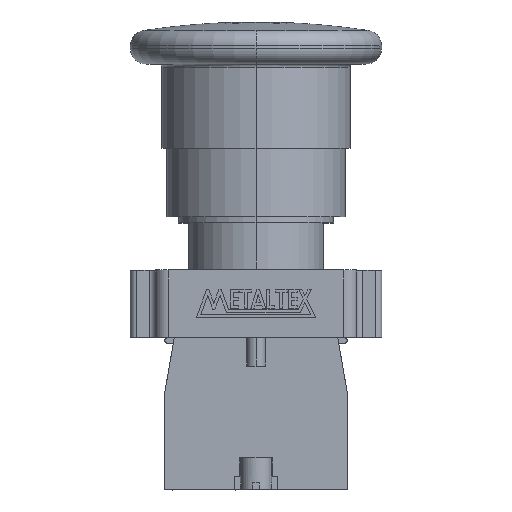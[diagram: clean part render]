
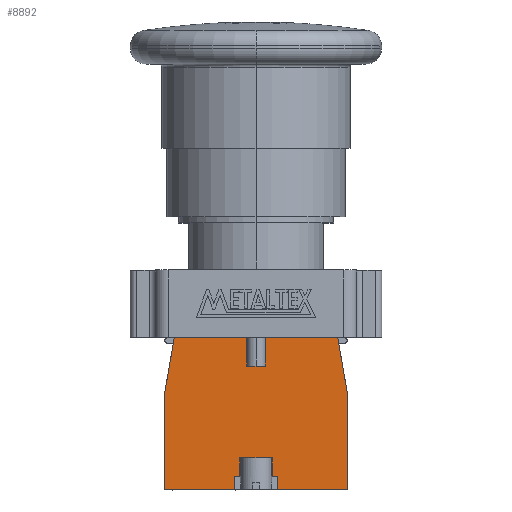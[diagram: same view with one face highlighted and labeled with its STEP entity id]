
A CAD part, top view. The second image highlights one B-rep face of the part: STEP entity #8892.
In plain terms, the highlighted planar face has unit normal (0, 0, 1).
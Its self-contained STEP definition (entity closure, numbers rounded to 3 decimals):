
#1168 = PLANE ( 'NONE',  #6559 ) ;
#1169 = CARTESIAN_POINT ( 'NONE',  ( 0., 0., 7.45 ) ) ;
#1170 = DIRECTION ( 'NONE',  ( 0., 0., 1. ) ) ;
#1171 = DIRECTION ( 'NONE',  ( 1., 0., 0. ) ) ;
#1584 = LINE ( 'NONE', #1585, #7468 ) ;
#1585 = CARTESIAN_POINT ( 'NONE',  ( -14.5, 0., 7.45 ) ) ;
#1586 = DIRECTION ( 'NONE',  ( 1., 0., 0. ) ) ;
#1593 = LINE ( 'NONE', #1594, #7465 ) ;
#1594 = CARTESIAN_POINT ( 'NONE',  ( -14.5, 0., 7.45 ) ) ;
#1595 = DIRECTION ( 'NONE',  ( 1., 0., 0. ) ) ;
#1707 = LINE ( 'NONE', #1708, #7423 ) ;
#1708 = CARTESIAN_POINT ( 'NONE',  ( 14.5, 0., 7.45 ) ) ;
#1709 = DIRECTION ( 'NONE',  ( 0., 1., 0. ) ) ;
#1719 = LINE ( 'NONE', #1720, #7418 ) ;
#1720 = CARTESIAN_POINT ( 'NONE',  ( -13., 24.2, 7.45 ) ) ;
#1721 = DIRECTION ( 'NONE',  ( -0.17, -0.985, 0. ) ) ;
#1722 = LINE ( 'NONE', #1723, #7417 ) ;
#1723 = CARTESIAN_POINT ( 'NONE',  ( -1.5, 19.6, 7.45 ) ) ;
#1724 = DIRECTION ( 'NONE',  ( 0., 1., 0. ) ) ;
#1725 = LINE ( 'NONE', #1726, #7416 ) ;
#1726 = CARTESIAN_POINT ( 'NONE',  ( -3.5, 0., 7.45 ) ) ;
#1727 = DIRECTION ( 'NONE',  ( 0., 1., 0. ) ) ;
#1728 = LINE ( 'NONE', #1729, #7415 ) ;
#1729 = CARTESIAN_POINT ( 'NONE',  ( 0., 2., 7.45 ) ) ;
#1730 = DIRECTION ( 'NONE',  ( 1., 0., 0. ) ) ;
#1731 = LINE ( 'NONE', #1732, #7414 ) ;
#1732 = CARTESIAN_POINT ( 'NONE',  ( -2.6, 0., 7.45 ) ) ;
#1733 = DIRECTION ( 'NONE',  ( 0., 1., 0. ) ) ;
#1734 = LINE ( 'NONE', #1735, #7412 ) ;
#1735 = CARTESIAN_POINT ( 'NONE',  ( 2.6, 0., 7.45 ) ) ;
#1736 = DIRECTION ( 'NONE',  ( 0., 1., 0. ) ) ;
#1737 = LINE ( 'NONE', #1738, #7409 ) ;
#1738 = CARTESIAN_POINT ( 'NONE',  ( 0., 2., 7.45 ) ) ;
#1739 = DIRECTION ( 'NONE',  ( 1., 0., 0. ) ) ;
#1740 = LINE ( 'NONE', #1741, #7406 ) ;
#1741 = CARTESIAN_POINT ( 'NONE',  ( 3.5, 0., 7.45 ) ) ;
#1742 = DIRECTION ( 'NONE',  ( 0., 1., 0. ) ) ;
#1743 = LINE ( 'NONE', #1744, #7403 ) ;
#1744 = CARTESIAN_POINT ( 'NONE',  ( 1.5, 19.6, 7.45 ) ) ;
#1745 = DIRECTION ( 'NONE',  ( 0., 1., 0. ) ) ;
#2596 = CARTESIAN_POINT ( 'NONE',  ( 1.5, 19.6, 7.45 ) ) ;
#2602 = CARTESIAN_POINT ( 'NONE',  ( 2.6, 5., 7.45 ) ) ;
#2603 = CARTESIAN_POINT ( 'NONE',  ( -2.6, 5., 7.45 ) ) ;
#2604 = CARTESIAN_POINT ( 'NONE',  ( -1.5, 19.6, 7.45 ) ) ;
#2611 = CARTESIAN_POINT ( 'NONE',  ( -14.5, 0., 7.45 ) ) ;
#2612 = CARTESIAN_POINT ( 'NONE',  ( -14.5, 15.5, 7.45 ) ) ;
#4561 = VERTEX_POINT ( 'NONE', #11277 ) ;
#4562 = VERTEX_POINT ( 'NONE', #11278 ) ;
#4566 = VERTEX_POINT ( 'NONE', #11282 ) ;
#4597 = VERTEX_POINT ( 'NONE', #11313 ) ;
#4598 = VERTEX_POINT ( 'NONE', #11314 ) ;
#4600 = VERTEX_POINT ( 'NONE', #11316 ) ;
#4601 = VERTEX_POINT ( 'NONE', #11317 ) ;
#4756 = VERTEX_POINT ( 'NONE', #11472 ) ;
#4757 = VERTEX_POINT ( 'NONE', #11473 ) ;
#4760 = VERTEX_POINT ( 'NONE', #11476 ) ;
#4761 = VERTEX_POINT ( 'NONE', #11477 ) ;
#4763 = VERTEX_POINT ( 'NONE', #11479 ) ;
#4942 = VERTEX_POINT ( 'NONE', #2596 ) ;
#4948 = VERTEX_POINT ( 'NONE', #2602 ) ;
#4949 = VERTEX_POINT ( 'NONE', #2603 ) ;
#4950 = VERTEX_POINT ( 'NONE', #2604 ) ;
#4957 = VERTEX_POINT ( 'NONE', #2611 ) ;
#4958 = VERTEX_POINT ( 'NONE', #2612 ) ;
#5411 = ORIENTED_EDGE ( 'NONE', *, *, #8408, .T. ) ;
#5413 = ORIENTED_EDGE ( 'NONE', *, *, #8533, .F. ) ;
#5414 = ORIENTED_EDGE ( 'NONE', *, *, #8368, .T. ) ;
#5415 = ORIENTED_EDGE ( 'NONE', *, *, #8521, .T. ) ;
#5416 = ORIENTED_EDGE ( 'NONE', *, *, #8357, .T. ) ;
#5417 = ORIENTED_EDGE ( 'NONE', *, *, #8480, .T. ) ;
#5418 = ORIENTED_EDGE ( 'NONE', *, *, #8531, .T. ) ;
#5419 = ORIENTED_EDGE ( 'NONE', *, *, #8532, .F. ) ;
#5420 = ORIENTED_EDGE ( 'NONE', *, *, #8530, .F. ) ;
#5421 = ORIENTED_EDGE ( 'NONE', *, *, #8402, .F. ) ;
#5422 = ORIENTED_EDGE ( 'NONE', *, *, #8528, .T. ) ;
#5423 = ORIENTED_EDGE ( 'NONE', *, *, #8529, .T. ) ;
#5424 = ORIENTED_EDGE ( 'NONE', *, *, #8527, .T. ) ;
#5425 = ORIENTED_EDGE ( 'NONE', *, *, #8483, .T. ) ;
#5426 = ORIENTED_EDGE ( 'NONE', *, *, #8364, .T. ) ;
#5427 = ORIENTED_EDGE ( 'NONE', *, *, #8415, .T. ) ;
#5428 = ORIENTED_EDGE ( 'NONE', *, *, #8526, .T. ) ;
#5429 = ORIENTED_EDGE ( 'NONE', *, *, #8525, .T. ) ;
#6141 = EDGE_LOOP ( 'NONE', ( #5428, #5426, #5429, #5427, #5425, #5424, #5422, #5423, #5421, #5420, #5418, #5419, #5417, #5415, #5416, #5414, #5413, #5411 ) ) ;
#6559 = AXIS2_PLACEMENT_3D ( 'NONE', #1169, #1170, #1171 ) ;
#6565 = FACE_OUTER_BOUND ( 'NONE', #6141, .T. ) ;
#7403 = VECTOR ( 'NONE', #1745, 1000. ) ;
#7406 = VECTOR ( 'NONE', #1742, 1000. ) ;
#7409 = VECTOR ( 'NONE', #1739, 1000. ) ;
#7412 = VECTOR ( 'NONE', #1736, 1000. ) ;
#7414 = VECTOR ( 'NONE', #1733, 1000. ) ;
#7415 = VECTOR ( 'NONE', #1730, 1000. ) ;
#7416 = VECTOR ( 'NONE', #1727, 1000. ) ;
#7417 = VECTOR ( 'NONE', #1724, 1000. ) ;
#7418 = VECTOR ( 'NONE', #1721, 1000. ) ;
#7423 = VECTOR ( 'NONE', #1709, 1000. ) ;
#7465 = VECTOR ( 'NONE', #1595, 1000. ) ;
#7468 = VECTOR ( 'NONE', #1586, 1000. ) ;
#7518 = VECTOR ( 'NONE', #9998, 1000. ) ;
#7526 = VECTOR ( 'NONE', #9977, 1000. ) ;
#7535 = VECTOR ( 'NONE', #9959, 1000. ) ;
#7568 = VECTOR ( 'NONE', #9857, 1000. ) ;
#7572 = VECTOR ( 'NONE', #9845, 1000. ) ;
#7580 = VECTOR ( 'NONE', #9824, 1000. ) ;
#8357 = EDGE_CURVE ( 'NONE', #4757, #4756, #9822, .T. ) ;
#8364 = EDGE_CURVE ( 'NONE', #4761, #4760, #9843, .T. ) ;
#8368 = EDGE_CURVE ( 'NONE', #4756, #4763, #9855, .T. ) ;
#8402 = EDGE_CURVE ( 'NONE', #4948, #4949, #9957, .T. ) ;
#8408 = EDGE_CURVE ( 'NONE', #4942, #4950, #9975, .T. ) ;
#8415 = EDGE_CURVE ( 'NONE', #4958, #4957, #9996, .T. ) ;
#8480 = EDGE_CURVE ( 'NONE', #4561, #4562, #1584, .T. ) ;
#8483 = EDGE_CURVE ( 'NONE', #4957, #4566, #1593, .T. ) ;
#8521 = EDGE_CURVE ( 'NONE', #4562, #4757, #1707, .T. ) ;
#8525 = EDGE_CURVE ( 'NONE', #4760, #4958, #1719, .T. ) ;
#8526 = EDGE_CURVE ( 'NONE', #4950, #4761, #1722, .T. ) ;
#8527 = EDGE_CURVE ( 'NONE', #4566, #4597, #1725, .T. ) ;
#8528 = EDGE_CURVE ( 'NONE', #4597, #4598, #1728, .T. ) ;
#8529 = EDGE_CURVE ( 'NONE', #4598, #4949, #1731, .T. ) ;
#8530 = EDGE_CURVE ( 'NONE', #4600, #4948, #1734, .T. ) ;
#8531 = EDGE_CURVE ( 'NONE', #4600, #4601, #1737, .T. ) ;
#8532 = EDGE_CURVE ( 'NONE', #4561, #4601, #1740, .T. ) ;
#8533 = EDGE_CURVE ( 'NONE', #4942, #4763, #1743, .T. ) ;
#8892 = ADVANCED_FACE ( 'NONE', ( #6565 ), #1168, .T. ) ;
#9822 = LINE ( 'NONE', #9823, #7580 ) ;
#9823 = CARTESIAN_POINT ( 'NONE',  ( 14.5, 15.5, 7.45 ) ) ;
#9824 = DIRECTION ( 'NONE',  ( -0.17, 0.985, 0. ) ) ;
#9843 = LINE ( 'NONE', #9844, #7572 ) ;
#9844 = CARTESIAN_POINT ( 'NONE',  ( 13., 24.2, 7.45 ) ) ;
#9845 = DIRECTION ( 'NONE',  ( -1., 0., 0. ) ) ;
#9855 = LINE ( 'NONE', #9856, #7568 ) ;
#9856 = CARTESIAN_POINT ( 'NONE',  ( 13., 24.2, 7.45 ) ) ;
#9857 = DIRECTION ( 'NONE',  ( -1., 0., 0. ) ) ;
#9957 = LINE ( 'NONE', #9958, #7535 ) ;
#9958 = CARTESIAN_POINT ( 'NONE',  ( 0., 5., 7.45 ) ) ;
#9959 = DIRECTION ( 'NONE',  ( -1., 0., 0. ) ) ;
#9975 = LINE ( 'NONE', #9976, #7526 ) ;
#9976 = CARTESIAN_POINT ( 'NONE',  ( 0., 19.6, 7.45 ) ) ;
#9977 = DIRECTION ( 'NONE',  ( -1., 0., 0. ) ) ;
#9996 = LINE ( 'NONE', #9997, #7518 ) ;
#9997 = CARTESIAN_POINT ( 'NONE',  ( -14.5, 15.5, 7.45 ) ) ;
#9998 = DIRECTION ( 'NONE',  ( 0., -1., 0. ) ) ;
#11277 = CARTESIAN_POINT ( 'NONE',  ( 3.5, 0., 7.45 ) ) ;
#11278 = CARTESIAN_POINT ( 'NONE',  ( 14.5, 0., 7.45 ) ) ;
#11282 = CARTESIAN_POINT ( 'NONE',  ( -3.5, 0., 7.45 ) ) ;
#11313 = CARTESIAN_POINT ( 'NONE',  ( -3.5, 2., 7.45 ) ) ;
#11314 = CARTESIAN_POINT ( 'NONE',  ( -2.6, 2., 7.45 ) ) ;
#11316 = CARTESIAN_POINT ( 'NONE',  ( 2.6, 2., 7.45 ) ) ;
#11317 = CARTESIAN_POINT ( 'NONE',  ( 3.5, 2., 7.45 ) ) ;
#11472 = CARTESIAN_POINT ( 'NONE',  ( 13., 24.2, 7.45 ) ) ;
#11473 = CARTESIAN_POINT ( 'NONE',  ( 14.5, 15.5, 7.45 ) ) ;
#11476 = CARTESIAN_POINT ( 'NONE',  ( -13., 24.2, 7.45 ) ) ;
#11477 = CARTESIAN_POINT ( 'NONE',  ( -1.5, 24.2, 7.45 ) ) ;
#11479 = CARTESIAN_POINT ( 'NONE',  ( 1.5, 24.2, 7.45 ) ) ;
